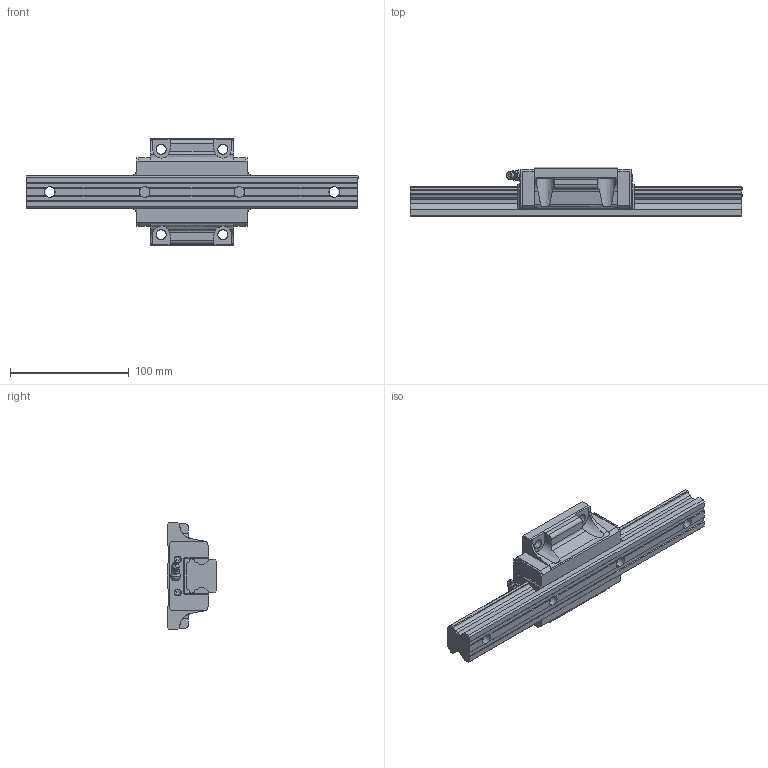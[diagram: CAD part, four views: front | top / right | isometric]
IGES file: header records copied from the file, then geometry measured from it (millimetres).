
Start section: SolidWorks IGES file using analytic representation for surfaces
Global section: file name: D:\Qsync\EOS Design B.V\Projecten\LM Systems\Models HSV\FINISHED\HSV30CSS.IGS; native system: SolidWorks 2016; preprocessor: SolidWorks 2016; author: EOS; date: 160314.144557; units: millimetre
Bounding box: 280 x 42 x 90 mm (x, y, z)
Surface area: 67436.7 mm2 (no closed solid volume)
Topology: 0 solids, 0 shells, 331 faces, 3696 edges, 3688 vertices
Faces by surface type: bspline 235, revolution 96
